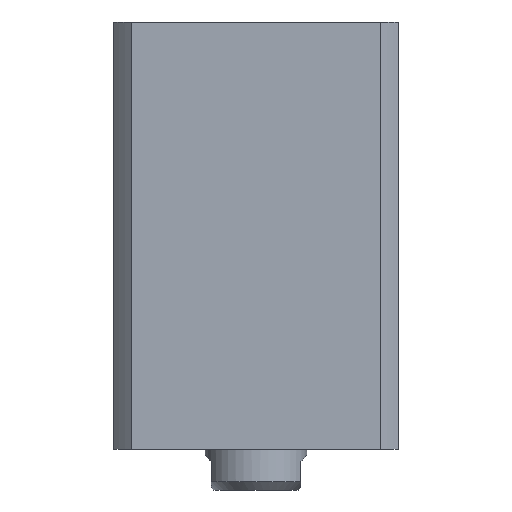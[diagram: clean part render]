
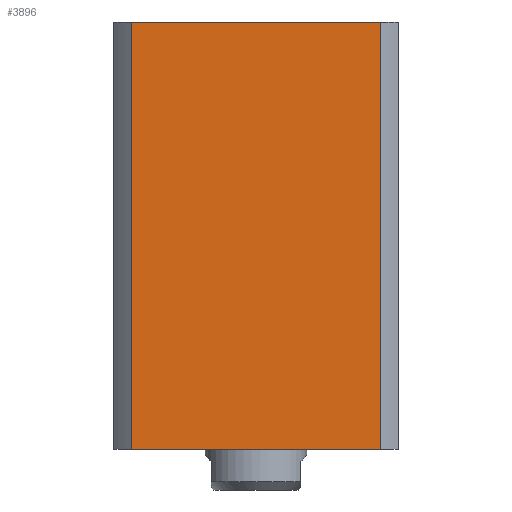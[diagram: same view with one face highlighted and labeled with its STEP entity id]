
A CAD part, left-side view. The second image highlights one B-rep face of the part: STEP entity #3896.
In plain terms, the highlighted planar face has unit normal (-1, 0, 0) as drawn and (0, 1, 0) by its records, which use the part's own axes.
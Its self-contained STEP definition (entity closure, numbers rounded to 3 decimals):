
#26 = CARTESIAN_POINT ( 'NONE',  ( -35., 35., 105. ) ) ;
#63 = LINE ( 'NONE', #26, #7885 ) ;
#167 = CARTESIAN_POINT ( 'NONE',  ( 30.615, 35., 0. ) ) ;
#398 = CARTESIAN_POINT ( 'NONE',  ( -30.615, 35., 300. ) ) ;
#412 = VERTEX_POINT ( 'NONE', #8920 ) ;
#508 = VECTOR ( 'NONE', #8939, 1000. ) ;
#765 = FACE_OUTER_BOUND ( 'NONE', #3519, .T. ) ;
#808 = VERTEX_POINT ( 'NONE', #5038 ) ;
#810 = DIRECTION ( 'NONE',  ( -1., 0., 0. ) ) ;
#1096 = DIRECTION ( 'NONE',  ( 0., 0., 1. ) ) ;
#1237 = LINE ( 'NONE', #2703, #3076 ) ;
#2703 = CARTESIAN_POINT ( 'NONE',  ( -35., 35., 0. ) ) ;
#2811 = ORIENTED_EDGE ( 'NONE', *, *, #9693, .F. ) ;
#3076 = VECTOR ( 'NONE', #3493, 1000. ) ;
#3453 = AXIS2_PLACEMENT_3D ( 'NONE', #6026, #9129, #4531 ) ;
#3493 = DIRECTION ( 'NONE',  ( -1., 0., 0. ) ) ;
#3519 = EDGE_LOOP ( 'NONE', ( #10046, #4405, #2811, #5136 ) ) ;
#3749 = PLANE ( 'NONE',  #3453 ) ;
#3896 = ADVANCED_FACE ( 'NONE', ( #765 ), #3749, .F. ) ;
#4405 = ORIENTED_EDGE ( 'NONE', *, *, #8342, .F. ) ;
#4531 = DIRECTION ( 'NONE',  ( 0., 0., -1. ) ) ;
#5038 = CARTESIAN_POINT ( 'NONE',  ( -30.615, 35., 0. ) ) ;
#5136 = ORIENTED_EDGE ( 'NONE', *, *, #10016, .T. ) ;
#5293 = CARTESIAN_POINT ( 'NONE',  ( -30.615, 35., 105. ) ) ;
#5454 = VERTEX_POINT ( 'NONE', #167 ) ;
#5718 = EDGE_CURVE ( 'NONE', #8017, #808, #8535, .T. ) ;
#5795 = CARTESIAN_POINT ( 'NONE',  ( 30.615, 35., 300. ) ) ;
#6026 = CARTESIAN_POINT ( 'NONE',  ( -35., 35., 105. ) ) ;
#7885 = VECTOR ( 'NONE', #810, 1000. ) ;
#8017 = VERTEX_POINT ( 'NONE', #5293 ) ;
#8342 = EDGE_CURVE ( 'NONE', #412, #8017, #63, .T. ) ;
#8535 = LINE ( 'NONE', #398, #508 ) ;
#8920 = CARTESIAN_POINT ( 'NONE',  ( 30.615, 35., 105. ) ) ;
#8939 = DIRECTION ( 'NONE',  ( 0., 0., -1. ) ) ;
#9129 = DIRECTION ( 'NONE',  ( 0., -1., 0. ) ) ;
#9693 = EDGE_CURVE ( 'NONE', #5454, #412, #9952, .T. ) ;
#9717 = VECTOR ( 'NONE', #1096, 1000. ) ;
#9952 = LINE ( 'NONE', #5795, #9717 ) ;
#10016 = EDGE_CURVE ( 'NONE', #5454, #808, #1237, .T. ) ;
#10046 = ORIENTED_EDGE ( 'NONE', *, *, #5718, .F. ) ;
